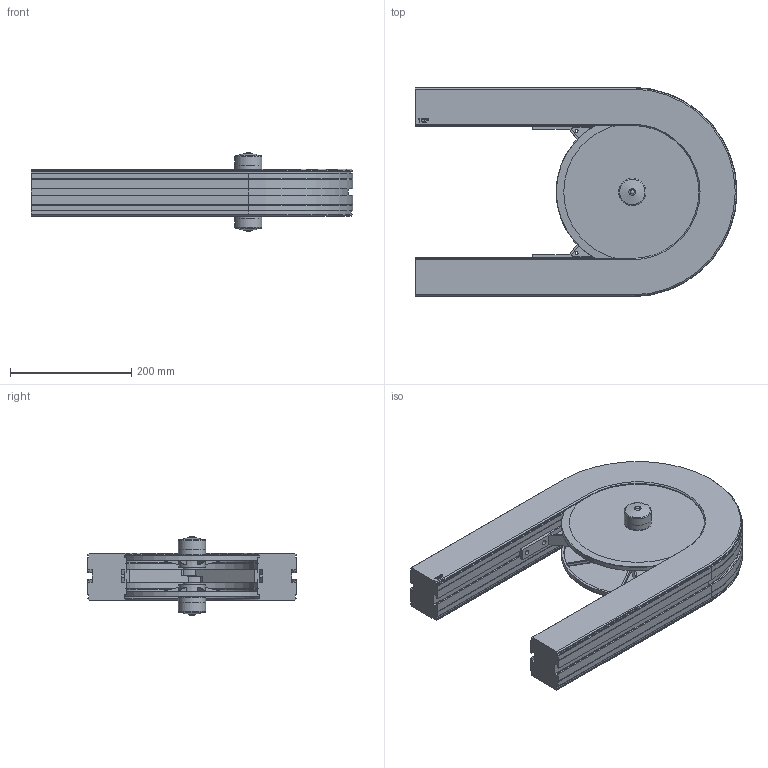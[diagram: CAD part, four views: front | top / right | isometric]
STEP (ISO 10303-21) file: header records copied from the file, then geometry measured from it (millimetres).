
FILE_DESCRIPTION((''),'2;1');
FILE_NAME('C:\Vault Klient\Projekt\Koncept konstruktion\Serie 620 Hjulkurva\620-5020.stp','2009-12-01T15:16:03',('Mathias'),(''),'Autodesk Inventor 2010','Autodesk Inventor 2010','');
FILE_SCHEMA(('CONFIG_CONTROL_DESIGN'));
Length unit declared in the file: millimetre
Products named in the file (5): 620-5020; 620-1000_03; 830-5026; 830-5027; FCWA-0413-025
Assembly tree (7 placements, depth 2):
  620-5020
    620-1000_03
    830-5026  x2
    830-5027  x2
    FCWA-0413-025  x2
Bounding box: 532 x 346 x 131.94 mm (x, y, z)
Volume: 5996613.1 mm3; surface area: 756196.8 mm2
Topology: 7 solids, 7 shells, 513 faces, 1344 edges, 868 vertices
Faces by surface type: plane 255, cylinder 120, bspline 88, cone 36, torus 10, sphere 4
Full cylindrical faces by diameter (mm): 6 x16, 29.5 x2, 30 x2, 34.5 x4, 41.3 x2, 45 x2, 50.3 x2, 252 x2
Entity records: 11810 total; most frequent: CARTESIAN_POINT 3615, ORIENTED_EDGE 1708, DIRECTION 1523, EDGE_CURVE 854, VERTEX_POINT 567, AXIS2_PLACEMENT_3D 511, VECTOR 501, LINE 501
